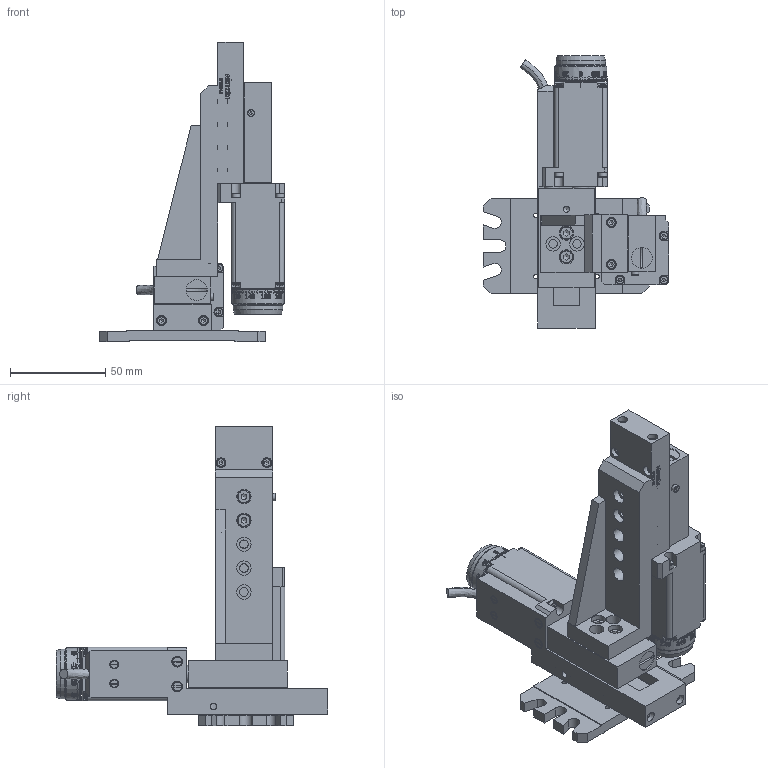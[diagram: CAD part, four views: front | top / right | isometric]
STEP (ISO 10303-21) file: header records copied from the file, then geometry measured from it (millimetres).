
FILE_DESCRIPTION(/* description */ (''),/* implementation_level */ '2;1');
FILE_NAME(/* name */ 'C:\Users\dsgn39\Desktop\Internetui\8MT173-25-XZ\8MT173-25-XZ.stp',/* time_stamp */ '2018-01-22T15:18:46+02:00',/* author */ ('dsgn39'),/* organization */ (''),/* preprocessor_version */ 'ST-DEVELOPER v15.2',/* originating_system */ 'Autodesk Inventor 2014',/* authorisation */ '');
FILE_SCHEMA (('AUTOMOTIVE_DESIGN { 1 0 10303 214 3 1 1 }'));
Products named in the file (2): Part18; Assembly8
Bounding box: 97 x 142.5 x 156.75 mm (x, y, z)
Volume: 273672.8 mm3; surface area: 83185.9 mm2
Topology: 1 solids, 79 shells, 3639 faces, 9476 edges, 6229 vertices
Faces by surface type: plane 1960, cylinder 738, bspline 570, cone 195, torus 148, sphere 28
Full cylindrical faces by diameter (mm): 2 x4, 2.013 x9, 2.4 x4, 2.459 x4, 2.5 x47, 2.7 x20, 2.8 x29, 3 x18, 3.2 x6, 3.242 x9, 3.8 x2, 4 x6, 4.4 x4, 4.5 x58, 4.8 x20, 4.917 x4, 5 x11, 5.2 x28, 7 x6, 7.1 x2, 7.5 x9, 8 x6, 8.3 x2, 9 x2, 10.917 x2, 25 x2, 26 x2, 27.5 x2
Entity records: 230289 total; most frequent: CARTESIAN_POINT 148658, ORIENTED_EDGE 17262, DIRECTION 15069, EDGE_CURVE 8631, VERTEX_POINT 5959, AXIS2_PLACEMENT_3D 5226, LINE 4617, VECTOR 4617
